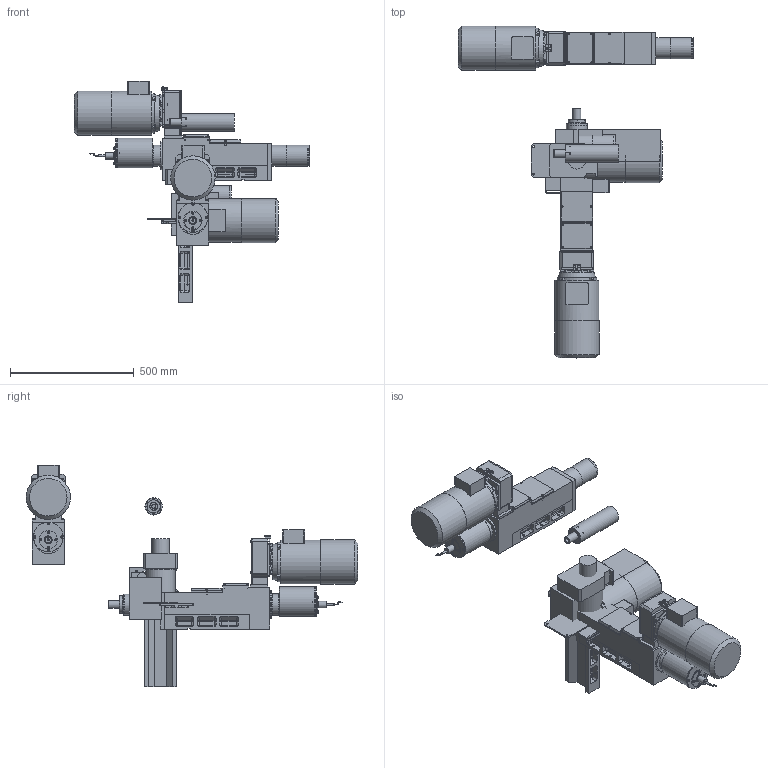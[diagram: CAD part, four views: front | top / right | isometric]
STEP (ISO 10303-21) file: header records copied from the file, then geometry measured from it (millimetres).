
FILE_DESCRIPTION( ( 'STEP AP203' ), '1' );
FILE_NAME( 'C:/Documents and Settings/Saverio/Desktop/disegni ironcad/unità serie 2/MC216 (ex MC220)/MC 216_A04_P.stp', '2014-03-25T10:12:23', ( ' ' ), ( ' ' ), 'XStep 1.0', ' ', ' ' );
FILE_SCHEMA( ( 'CONFIG_CONTROL_DESIGN' ) );
Length unit declared in the file: metre
Products named in the file (48): Assem1; Assem2; Assem3; Assem4; 1; 2; 3; 4; 5; 6; 7; 8; 9; 10; 11; 12; 13; 14; 15; 16; 17; 18; 19; 20; 21; 22; 23; 24; 25; 26; 27; 28; 29; 30; 31; 32; 33; 34; 35; 36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
Bounding box: 950 x 1338.73 x 894.21 mm (x, y, z)
Volume: 58494978.9 mm3; surface area: 4316123.5 mm2
Topology: 134 solids, 134 shells, 3188 faces, 7214 edges, 4379 vertices
Faces by surface type: plane 1689, cylinder 822, cone 442, bspline 126, sphere 60, torus 49
Full cylindrical faces by diameter (mm): 5 x72, 5.25 x12, 5.5 x33, 6.5 x18, 6.637 x15, 6.647 x12, 6.75 x16, 7 x3, 8 x3, 8.385 x3, 8.5 x48, 8.75 x18, 16 x3, 18 x3, 24 x3, 26 x3, 31.2 x3, 32 x6, 52 x3, 53 x3, 54 x6, 70 x10, 74 x6, 76 x3, 80 x8, 84.5 x4, 85 x4, 86 x3, 95 x3, 112 x3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
Entity records: 32048 total; most frequent: CARTESIAN_POINT 8022, DIRECTION 4575, ORIENTED_EDGE 4034, EDGE_CURVE 2017, AXIS2_PLACEMENT_3D 1709, EDGE_LOOP 1445, VERTEX_POINT 1385, FACE_OUTER_BOUND 1180
